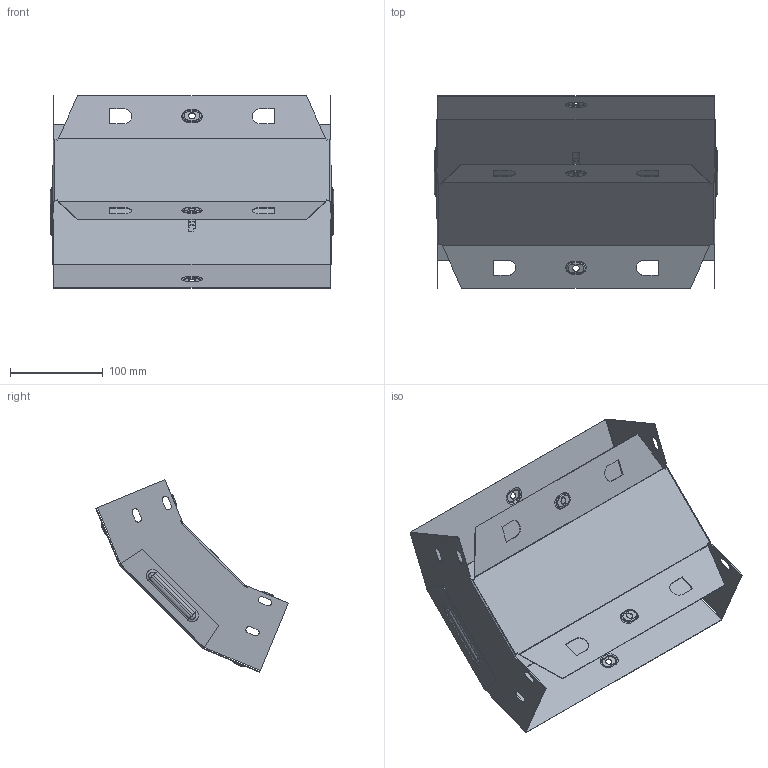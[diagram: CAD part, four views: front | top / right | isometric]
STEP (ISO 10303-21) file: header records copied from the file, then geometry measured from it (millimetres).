
FILE_DESCRIPTION (( 'STEP AP214' ), '1' );
FILE_NAME ('vo4580300_捘.STEP', '2019-06-10T08:18:15', ( '砐錪賧瘔蠈錪 Windows' ), ( '' ), 'SwSTEP 2.0', 'SolidWorks 2018', '' );
FILE_SCHEMA (( 'AUTOMOTIVE_DESIGN' ));
Length unit declared in the file: millimetre
Products named in the file (1): vo4580300_捘
Bounding box: 305.6 x 207.86 x 207.86 mm (x, y, z)
Volume: 139185.2 mm3; surface area: 350919.9 mm2
Topology: 2 solids, 2 shells, 388 faces, 966 edges, 604 vertices
Faces by surface type: plane 185, cylinder 122, torus 64, bspline 17
Entity records: 12166 total; most frequent: CARTESIAN_POINT 2715, DIRECTION 1984, ORIENTED_EDGE 1932, EDGE_CURVE 966, AXIS2_PLACEMENT_3D 696, VERTEX_POINT 604, LINE 592, VECTOR 592
